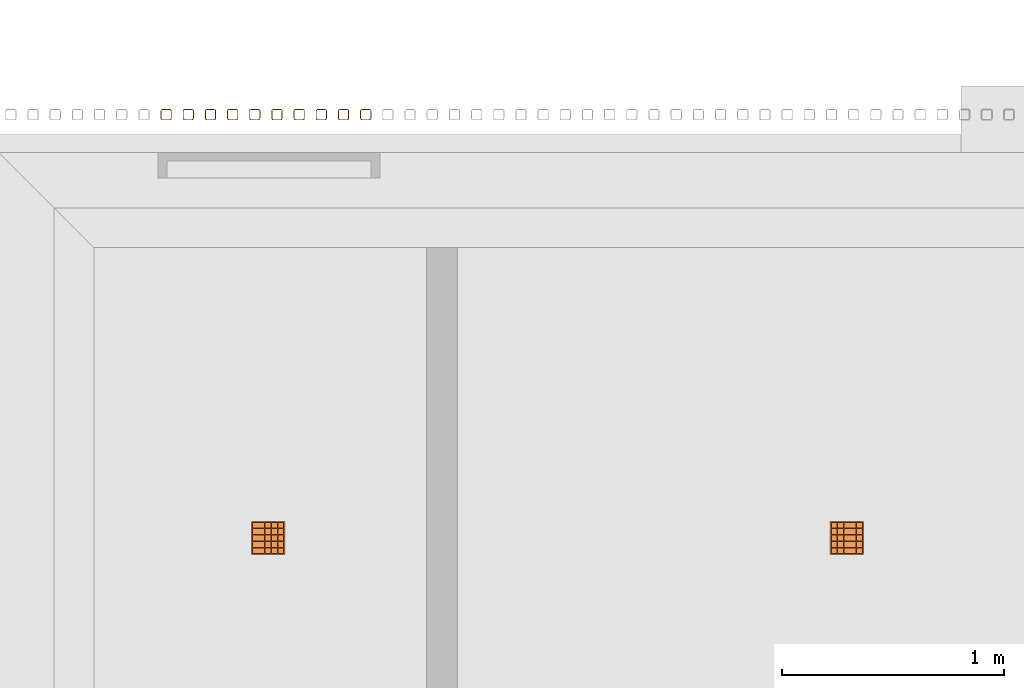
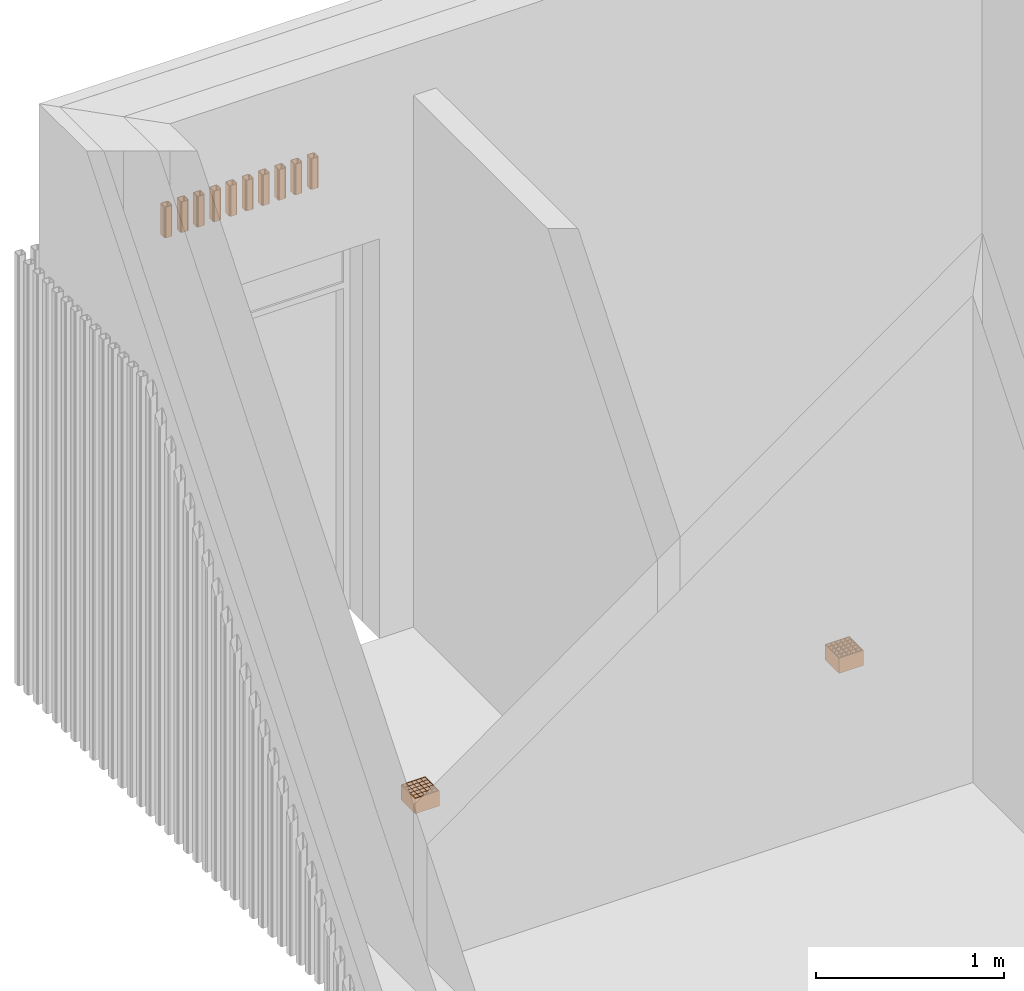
# One storey, part 101 of 112: 12 proxies.
"""IFC2X3 building model written with IfcOpenShell, lengths in millimetres."""

from ifc_helpers import new_model, entity, si_unit, converted_unit, derived_unit, money_unit, direction, frame, origin_with_axes, place, context, subcontext, project, spatial, faceted_brep, source, transform, mapped, material, type_object, element, save


model = new_model("IFC2X3")

# Units and contexts
model_context = context("Model", 3, precision=0.01, world=origin_with_axes(), true_north=direction((0.0, 1.0)))
body_context = subcontext(model_context, "Body", "Model", "MODEL_VIEW")
ifc_project = project(units=[si_unit("LENGTHUNIT", "METRE", prefix="MILLI"), si_unit("AREAUNIT", "SQUARE_METRE"), si_unit("VOLUMEUNIT", "CUBIC_METRE"), converted_unit("PLANEANGLEUNIT", "DEGREE", entity("IfcPlaneAngleMeasure", 0.0174532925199), si_unit("PLANEANGLEUNIT", "RADIAN"), dimensions=[0, 0, 0, 0, 0, 0, 0]), si_unit("SOLIDANGLEUNIT", "STERADIAN"), money_unit("EUR"), converted_unit("TIMEUNIT", "Year", entity("IfcTimeMeasure", 31556926.0), si_unit("TIMEUNIT", "SECOND"), dimensions=[0, 0, 1, 0, 0, 0, 0]), si_unit("MASSUNIT", "GRAM", prefix="KILO"), si_unit("THERMODYNAMICTEMPERATUREUNIT", "DEGREE_CELSIUS"), si_unit("LUMINOUSINTENSITYUNIT", "LUMEN"), si_unit("ENERGYUNIT", "JOULE", prefix="MEGA"), derived_unit("THERMALCONDUCTANCEUNIT", [(si_unit("POWERUNIT", "WATT"), 1), (si_unit("LENGTHUNIT", "METRE"), -1), (si_unit("THERMODYNAMICTEMPERATUREUNIT", "KELVIN"), -1)]), derived_unit("SPECIFICHEATCAPACITYUNIT", [(si_unit("ENERGYUNIT", "JOULE"), 1), (si_unit("MASSUNIT", "GRAM", prefix="KILO"), -1), (si_unit("THERMODYNAMICTEMPERATUREUNIT", "KELVIN"), -1)]), derived_unit("MASSDENSITYUNIT", [(si_unit("MASSUNIT", "GRAM", prefix="KILO"), 1), (si_unit("VOLUMEUNIT", "CUBIC_METRE"), -1)])], contexts=[model_context])

# Site, building, storey
site_placement = place(None, origin_with_axes())
site = spatial("IfcSite", under=ifc_project, at=site_placement, Name="Politse- ja Piirivalveameti ning Päästeameti ühishoone", CompositionType="ELEMENT")
building_placement = place(site_placement, origin_with_axes())
building = spatial("IfcBuilding", under=site, at=building_placement, Name="Politse- ja Piirivalveameti ning Päästeameti ühishoone", CompositionType="ELEMENT")
storey_placement = place(building_placement, origin_with_axes())
storey = spatial("IfcBuildingStorey", under=building, at=storey_placement, Name="Esimene korrus", CompositionType="ELEMENT", Elevation=0.0)

# Proxies
building_element_proxy_type_1 = type_object("IfcBuildingElementProxyType", Name="Grid 23", PredefinedType="NOTDEFINED")
shared_shape_1 = source(origin_with_axes(), body_context, "Body", "Brep", [
    faceted_brep([(0.0, 0.0, 0.0), (5.0, 5.0, 0.0), (5.0, 5.0, 100.0), (0.0, 0.0, 100.0), (0.0, 150.0, 0.0), (5.0, 145.0, 0.0), (5.0, 119.5, 0.0), (5.0, 117.5, 0.0), (5.0, 90.5, 0.0), (5.0, 88.5, 0.0), (5.0, 61.5, 0.0), (5.0, 59.5, 0.0), (5.0, 32.5, 0.0), (5.0, 30.5, 0.0), (5.0, 30.5, 100.0), (5.0, 32.5, 100.0), (5.0, 59.5, 100.0), (5.0, 61.5, 100.0), (5.0, 88.5, 100.0), (5.0, 90.5, 100.0), (5.0, 117.5, 100.0), (5.0, 119.5, 100.0), (5.0, 145.0, 100.0), (0.0, 150.0, 100.0)], [[[0, 1, 2, 3]], [[0, 4, 5, 6, 7, 8, 9, 10, 11, 12, 13, 1]], [[1, 13, 14, 2]], [[3, 2, 14, 15, 16, 17, 18, 19, 20, 21, 22, 23]], [[4, 0, 3, 23]], [[5, 4, 23, 22]], [[6, 5, 22, 21]], [[7, 6, 21, 20]], [[8, 7, 20, 19]], [[9, 8, 19, 18]], [[10, 9, 18, 17]], [[11, 10, 17, 16]], [[12, 11, 16, 15]], [[13, 12, 15, 14]]]),
    faceted_brep([(150.0, 150.0, 0.0), (145.0, 145.0, 0.0), (145.0, 145.0, 100.0), (150.0, 150.0, 100.0), (150.0, 0.0, 0.0), (145.0, 5.0, 0.0), (145.0, 30.5, 0.0), (145.0, 32.5, 0.0), (145.0, 59.5, 0.0), (145.0, 61.5, 0.0), (145.0, 88.5, 0.0), (145.0, 90.5, 0.0), (145.0, 117.5, 0.0), (145.0, 119.5, 0.0), (145.0, 119.5, 100.0), (145.0, 117.5, 100.0), (145.0, 90.5, 100.0), (145.0, 88.5, 100.0), (145.0, 61.5, 100.0), (145.0, 59.5, 100.0), (145.0, 32.5, 100.0), (145.0, 30.5, 100.0), (145.0, 5.0, 100.0), (150.0, 0.0, 100.0)], [[[0, 1, 2, 3]], [[0, 4, 5, 6, 7, 8, 9, 10, 11, 12, 13, 1]], [[1, 13, 14, 2]], [[3, 2, 14, 15, 16, 17, 18, 19, 20, 21, 22, 23]], [[4, 0, 3, 23]], [[5, 4, 23, 22]], [[6, 5, 22, 21]], [[7, 6, 21, 20]], [[8, 7, 20, 19]], [[9, 8, 19, 18]], [[10, 9, 18, 17]], [[11, 10, 17, 16]], [[12, 11, 16, 15]], [[13, 12, 15, 14]]]),
    faceted_brep([(150.0, 0.0, 0.0), (145.0, 5.0, 0.0), (145.0, 5.0, 100.0), (150.0, 0.0, 100.0), (0.0, 0.0, 0.0), (5.0, 5.0, 0.0), (30.5, 5.0, 0.0), (32.5, 5.0, 0.0), (59.5, 5.0, 0.0), (61.5, 5.0, 0.0), (88.5, 5.0, 0.0), (90.5, 5.0, 0.0), (117.5, 5.0, 0.0), (119.5, 5.0, 0.0), (119.5, 5.0, 100.0), (117.5, 5.0, 100.0), (90.5, 5.0, 100.0), (88.5, 5.0, 100.0), (61.5, 5.0, 100.0), (59.5, 5.0, 100.0), (32.5, 5.0, 100.0), (30.5, 5.0, 100.0), (5.0, 5.0, 100.0), (0.0, 0.0, 100.0)], [[[0, 1, 2, 3]], [[0, 4, 5, 6, 7, 8, 9, 10, 11, 12, 13, 1]], [[1, 13, 14, 2]], [[3, 2, 14, 15, 16, 17, 18, 19, 20, 21, 22, 23]], [[4, 0, 3, 23]], [[5, 4, 23, 22]], [[6, 5, 22, 21]], [[7, 6, 21, 20]], [[8, 7, 20, 19]], [[9, 8, 19, 18]], [[10, 9, 18, 17]], [[11, 10, 17, 16]], [[12, 11, 16, 15]], [[13, 12, 15, 14]]]),
    faceted_brep([(0.0, 150.0, 0.0), (5.0, 145.0, 0.0), (5.0, 145.0, 100.0), (0.0, 150.0, 100.0), (150.0, 150.0, 0.0), (145.0, 145.0, 0.0), (119.5, 145.0, 0.0), (117.5, 145.0, 0.0), (90.5, 145.0, 0.0), (88.5, 145.0, 0.0), (61.5, 145.0, 0.0), (59.5, 145.0, 0.0), (32.5, 145.0, 0.0), (30.5, 145.0, 0.0), (30.5, 145.0, 100.0), (32.5, 145.0, 100.0), (59.5, 145.0, 100.0), (61.5, 145.0, 100.0), (88.5, 145.0, 100.0), (90.5, 145.0, 100.0), (117.5, 145.0, 100.0), (119.5, 145.0, 100.0), (145.0, 145.0, 100.0), (150.0, 150.0, 100.0)], [[[0, 1, 2, 3]], [[0, 4, 5, 6, 7, 8, 9, 10, 11, 12, 13, 1]], [[1, 13, 14, 2]], [[3, 2, 14, 15, 16, 17, 18, 19, 20, 21, 22, 23]], [[4, 0, 3, 23]], [[5, 4, 23, 22]], [[6, 5, 22, 21]], [[7, 6, 21, 20]], [[8, 7, 20, 19]], [[9, 8, 19, 18]], [[10, 9, 18, 17]], [[11, 10, 17, 16]], [[12, 11, 16, 15]], [[13, 12, 15, 14]]]),
    faceted_brep([(30.5, 5.0, 0.0), (32.5, 5.0, 0.0), (32.5, 5.0, 100.0), (30.5, 5.0, 100.0), (30.5, 30.5, 0.0), (30.5, 32.5, 0.0), (30.5, 59.5, 0.0), (30.5, 61.5, 0.0), (30.5, 88.5, 0.0), (30.5, 90.5, 0.0), (30.5, 117.5, 0.0), (30.5, 119.5, 0.0), (30.5, 145.0, 0.0), (32.5, 145.0, 0.0), (32.5, 119.5, 0.0), (32.5, 117.5, 0.0), (32.5, 90.5, 0.0), (32.5, 88.5, 0.0), (32.5, 61.5, 0.0), (32.5, 59.5, 0.0), (32.5, 32.5, 0.0), (32.5, 30.5, 0.0), (32.5, 30.5, 100.0), (32.5, 32.5, 100.0), (32.5, 59.5, 100.0), (32.5, 61.5, 100.0), (32.5, 88.5, 100.0), (32.5, 90.5, 100.0), (32.5, 117.5, 100.0), (32.5, 119.5, 100.0), (32.5, 145.0, 100.0), (30.5, 145.0, 100.0), (30.5, 119.5, 100.0), (30.5, 117.5, 100.0), (30.5, 90.5, 100.0), (30.5, 88.5, 100.0), (30.5, 61.5, 100.0), (30.5, 59.5, 100.0), (30.5, 32.5, 100.0), (30.5, 30.5, 100.0)], [[[0, 1, 2, 3]], [[0, 4, 5, 6, 7, 8, 9, 10, 11, 12, 13, 14, 15, 16, 17, 18, 19, 20, 21, 1]], [[1, 21, 22, 2]], [[3, 2, 22, 23, 24, 25, 26, 27, 28, 29, 30, 31, 32, 33, 34, 35, 36, 37, 38, 39]], [[4, 0, 3, 39]], [[5, 4, 39, 38]], [[6, 5, 38, 37]], [[7, 6, 37, 36]], [[8, 7, 36, 35]], [[9, 8, 35, 34]], [[10, 9, 34, 33]], [[11, 10, 33, 32]], [[12, 11, 32, 31]], [[13, 12, 31, 30]], [[14, 13, 30, 29]], [[15, 14, 29, 28]], [[16, 15, 28, 27]], [[17, 16, 27, 26]], [[18, 17, 26, 25]], [[19, 18, 25, 24]], [[20, 19, 24, 23]], [[21, 20, 23, 22]]]),
    faceted_brep([(59.5, 5.0, 0.0), (61.5, 5.0, 0.0), (61.5, 5.0, 100.0), (59.5, 5.0, 100.0), (59.5, 30.5, 0.0), (59.5, 32.5, 0.0), (59.5, 59.5, 0.0), (59.5, 61.5, 0.0), (59.5, 88.5, 0.0), (59.5, 90.5, 0.0), (59.5, 117.5, 0.0), (59.5, 119.5, 0.0), (59.5, 145.0, 0.0), (61.5, 145.0, 0.0), (61.5, 119.5, 0.0), (61.5, 117.5, 0.0), (61.5, 90.5, 0.0), (61.5, 88.5, 0.0), (61.5, 61.5, 0.0), (61.5, 59.5, 0.0), (61.5, 32.5, 0.0), (61.5, 30.5, 0.0), (61.5, 30.5, 100.0), (61.5, 32.5, 100.0), (61.5, 59.5, 100.0), (61.5, 61.5, 100.0), (61.5, 88.5, 100.0), (61.5, 90.5, 100.0), (61.5, 117.5, 100.0), (61.5, 119.5, 100.0), (61.5, 145.0, 100.0), (59.5, 145.0, 100.0), (59.5, 119.5, 100.0), (59.5, 117.5, 100.0), (59.5, 90.5, 100.0), (59.5, 88.5, 100.0), (59.5, 61.5, 100.0), (59.5, 59.5, 100.0), (59.5, 32.5, 100.0), (59.5, 30.5, 100.0)], [[[0, 1, 2, 3]], [[0, 4, 5, 6, 7, 8, 9, 10, 11, 12, 13, 14, 15, 16, 17, 18, 19, 20, 21, 1]], [[1, 21, 22, 2]], [[3, 2, 22, 23, 24, 25, 26, 27, 28, 29, 30, 31, 32, 33, 34, 35, 36, 37, 38, 39]], [[4, 0, 3, 39]], [[5, 4, 39, 38]], [[6, 5, 38, 37]], [[7, 6, 37, 36]], [[8, 7, 36, 35]], [[9, 8, 35, 34]], [[10, 9, 34, 33]], [[11, 10, 33, 32]], [[12, 11, 32, 31]], [[13, 12, 31, 30]], [[14, 13, 30, 29]], [[15, 14, 29, 28]], [[16, 15, 28, 27]], [[17, 16, 27, 26]], [[18, 17, 26, 25]], [[19, 18, 25, 24]], [[20, 19, 24, 23]], [[21, 20, 23, 22]]]),
    faceted_brep([(88.5, 5.0, 0.0), (90.5, 5.0, 0.0), (90.5, 5.0, 100.0), (88.5, 5.0, 100.0), (88.5, 30.5, 0.0), (88.5, 32.5, 0.0), (88.5, 59.5, 0.0), (88.5, 61.5, 0.0), (88.5, 88.5, 0.0), (88.5, 90.5, 0.0), (88.5, 117.5, 0.0), (88.5, 119.5, 0.0), (88.5, 145.0, 0.0), (90.5, 145.0, 0.0), (90.5, 119.5, 0.0), (90.5, 117.5, 0.0), (90.5, 90.5, 0.0), (90.5, 88.5, 0.0), (90.5, 61.5, 0.0), (90.5, 59.5, 0.0), (90.5, 32.5, 0.0), (90.5, 30.5, 0.0), (90.5, 30.5, 100.0), (90.5, 32.5, 100.0), (90.5, 59.5, 100.0), (90.5, 61.5, 100.0), (90.5, 88.5, 100.0), (90.5, 90.5, 100.0), (90.5, 117.5, 100.0), (90.5, 119.5, 100.0), (90.5, 145.0, 100.0), (88.5, 145.0, 100.0), (88.5, 119.5, 100.0), (88.5, 117.5, 100.0), (88.5, 90.5, 100.0), (88.5, 88.5, 100.0), (88.5, 61.5, 100.0), (88.5, 59.5, 100.0), (88.5, 32.5, 100.0), (88.5, 30.5, 100.0)], [[[0, 1, 2, 3]], [[0, 4, 5, 6, 7, 8, 9, 10, 11, 12, 13, 14, 15, 16, 17, 18, 19, 20, 21, 1]], [[1, 21, 22, 2]], [[3, 2, 22, 23, 24, 25, 26, 27, 28, 29, 30, 31, 32, 33, 34, 35, 36, 37, 38, 39]], [[4, 0, 3, 39]], [[5, 4, 39, 38]], [[6, 5, 38, 37]], [[7, 6, 37, 36]], [[8, 7, 36, 35]], [[9, 8, 35, 34]], [[10, 9, 34, 33]], [[11, 10, 33, 32]], [[12, 11, 32, 31]], [[13, 12, 31, 30]], [[14, 13, 30, 29]], [[15, 14, 29, 28]], [[16, 15, 28, 27]], [[17, 16, 27, 26]], [[18, 17, 26, 25]], [[19, 18, 25, 24]], [[20, 19, 24, 23]], [[21, 20, 23, 22]]]),
    faceted_brep([(117.5, 5.0, 0.0), (119.5, 5.0, 0.0), (119.5, 5.0, 100.0), (117.5, 5.0, 100.0), (117.5, 30.5, 0.0), (117.5, 32.5, 0.0), (117.5, 59.5, 0.0), (117.5, 61.5, 0.0), (117.5, 88.5, 0.0), (117.5, 90.5, 0.0), (117.5, 117.5, 0.0), (117.5, 119.5, 0.0), (117.5, 145.0, 0.0), (119.5, 145.0, 0.0), (119.5, 119.5, 0.0), (119.5, 117.5, 0.0), (119.5, 90.5, 0.0), (119.5, 88.5, 0.0), (119.5, 61.5, 0.0), (119.5, 59.5, 0.0), (119.5, 32.5, 0.0), (119.5, 30.5, 0.0), (119.5, 30.5, 100.0), (119.5, 32.5, 100.0), (119.5, 59.5, 100.0), (119.5, 61.5, 100.0), (119.5, 88.5, 100.0), (119.5, 90.5, 100.0), (119.5, 117.5, 100.0), (119.5, 119.5, 100.0), (119.5, 145.0, 100.0), (117.5, 145.0, 100.0), (117.5, 119.5, 100.0), (117.5, 117.5, 100.0), (117.5, 90.5, 100.0), (117.5, 88.5, 100.0), (117.5, 61.5, 100.0), (117.5, 59.5, 100.0), (117.5, 32.5, 100.0), (117.5, 30.5, 100.0)], [[[0, 1, 2, 3]], [[0, 4, 5, 6, 7, 8, 9, 10, 11, 12, 13, 14, 15, 16, 17, 18, 19, 20, 21, 1]], [[1, 21, 22, 2]], [[3, 2, 22, 23, 24, 25, 26, 27, 28, 29, 30, 31, 32, 33, 34, 35, 36, 37, 38, 39]], [[4, 0, 3, 39]], [[5, 4, 39, 38]], [[6, 5, 38, 37]], [[7, 6, 37, 36]], [[8, 7, 36, 35]], [[9, 8, 35, 34]], [[10, 9, 34, 33]], [[11, 10, 33, 32]], [[12, 11, 32, 31]], [[13, 12, 31, 30]], [[14, 13, 30, 29]], [[15, 14, 29, 28]], [[16, 15, 28, 27]], [[17, 16, 27, 26]], [[18, 17, 26, 25]], [[19, 18, 25, 24]], [[20, 19, 24, 23]], [[21, 20, 23, 22]]]),
    faceted_brep([(30.5, 30.5, 0.0), (30.5, 32.5, 0.0), (30.5, 32.5, 100.0), (30.5, 30.5, 100.0), (5.0, 30.5, 0.0), (5.0, 32.5, 0.0), (5.0, 32.5, 100.0), (5.0, 30.5, 100.0)], [[[0, 1, 2, 3]], [[0, 4, 5, 1]], [[1, 5, 6, 2]], [[3, 2, 6, 7]], [[4, 0, 3, 7]], [[5, 4, 7, 6]]]),
    faceted_brep([(30.5, 59.5, 0.0), (30.5, 61.5, 0.0), (30.5, 61.5, 100.0), (30.5, 59.5, 100.0), (5.0, 59.5, 0.0), (5.0, 61.5, 0.0), (5.0, 61.5, 100.0), (5.0, 59.5, 100.0)], [[[0, 1, 2, 3]], [[0, 4, 5, 1]], [[1, 5, 6, 2]], [[3, 2, 6, 7]], [[4, 0, 3, 7]], [[5, 4, 7, 6]]]),
    faceted_brep([(30.5, 88.5, 0.0), (30.5, 90.5, 0.0), (30.5, 90.5, 100.0), (30.5, 88.5, 100.0), (5.0, 88.5, 0.0), (5.0, 90.5, 0.0), (5.0, 90.5, 100.0), (5.0, 88.5, 100.0)], [[[0, 1, 2, 3]], [[0, 4, 5, 1]], [[1, 5, 6, 2]], [[3, 2, 6, 7]], [[4, 0, 3, 7]], [[5, 4, 7, 6]]]),
    faceted_brep([(30.5, 117.5, 0.0), (30.5, 119.5, 0.0), (30.5, 119.5, 100.0), (30.5, 117.5, 100.0), (5.0, 117.5, 0.0), (5.0, 119.5, 0.0), (5.0, 119.5, 100.0), (5.0, 117.5, 100.0)], [[[0, 1, 2, 3]], [[0, 4, 5, 1]], [[1, 5, 6, 2]], [[3, 2, 6, 7]], [[4, 0, 3, 7]], [[5, 4, 7, 6]]]),
    faceted_brep([(59.5, 30.5, 0.0), (59.5, 32.5, 0.0), (59.5, 32.5, 100.0), (59.5, 30.5, 100.0), (32.5, 30.5, 0.0), (32.5, 32.5, 0.0), (32.5, 32.5, 100.0), (32.5, 30.5, 100.0)], [[[0, 1, 2, 3]], [[0, 4, 5, 1]], [[1, 5, 6, 2]], [[3, 2, 6, 7]], [[4, 0, 3, 7]], [[5, 4, 7, 6]]]),
    faceted_brep([(59.5, 59.5, 0.0), (59.5, 61.5, 0.0), (59.5, 61.5, 100.0), (59.5, 59.5, 100.0), (32.5, 59.5, 0.0), (32.5, 61.5, 0.0), (32.5, 61.5, 100.0), (32.5, 59.5, 100.0)], [[[0, 1, 2, 3]], [[0, 4, 5, 1]], [[1, 5, 6, 2]], [[3, 2, 6, 7]], [[4, 0, 3, 7]], [[5, 4, 7, 6]]]),
    faceted_brep([(59.5, 88.5, 0.0), (59.5, 90.5, 0.0), (59.5, 90.5, 100.0), (59.5, 88.5, 100.0), (32.5, 88.5, 0.0), (32.5, 90.5, 0.0), (32.5, 90.5, 100.0), (32.5, 88.5, 100.0)], [[[0, 1, 2, 3]], [[0, 4, 5, 1]], [[1, 5, 6, 2]], [[3, 2, 6, 7]], [[4, 0, 3, 7]], [[5, 4, 7, 6]]]),
    faceted_brep([(59.5, 117.5, 0.0), (59.5, 119.5, 0.0), (59.5, 119.5, 100.0), (59.5, 117.5, 100.0), (32.5, 117.5, 0.0), (32.5, 119.5, 0.0), (32.5, 119.5, 100.0), (32.5, 117.5, 100.0)], [[[0, 1, 2, 3]], [[0, 4, 5, 1]], [[1, 5, 6, 2]], [[3, 2, 6, 7]], [[4, 0, 3, 7]], [[5, 4, 7, 6]]]),
    faceted_brep([(88.5, 30.5, 0.0), (88.5, 32.5, 0.0), (88.5, 32.5, 100.0), (88.5, 30.5, 100.0), (61.5, 30.5, 0.0), (61.5, 32.5, 0.0), (61.5, 32.5, 100.0), (61.5, 30.5, 100.0)], [[[0, 1, 2, 3]], [[0, 4, 5, 1]], [[1, 5, 6, 2]], [[3, 2, 6, 7]], [[4, 0, 3, 7]], [[5, 4, 7, 6]]]),
    faceted_brep([(88.5, 59.5, 0.0), (88.5, 61.5, 0.0), (88.5, 61.5, 100.0), (88.5, 59.5, 100.0), (61.5, 59.5, 0.0), (61.5, 61.5, 0.0), (61.5, 61.5, 100.0), (61.5, 59.5, 100.0)], [[[0, 1, 2, 3]], [[0, 4, 5, 1]], [[1, 5, 6, 2]], [[3, 2, 6, 7]], [[4, 0, 3, 7]], [[5, 4, 7, 6]]]),
    faceted_brep([(88.5, 88.5, 0.0), (88.5, 90.5, 0.0), (88.5, 90.5, 100.0), (88.5, 88.5, 100.0), (61.5, 88.5, 0.0), (61.5, 90.5, 0.0), (61.5, 90.5, 100.0), (61.5, 88.5, 100.0)], [[[0, 1, 2, 3]], [[0, 4, 5, 1]], [[1, 5, 6, 2]], [[3, 2, 6, 7]], [[4, 0, 3, 7]], [[5, 4, 7, 6]]]),
    faceted_brep([(88.5, 117.5, 0.0), (88.5, 119.5, 0.0), (88.5, 119.5, 100.0), (88.5, 117.5, 100.0), (61.5, 117.5, 0.0), (61.5, 119.5, 0.0), (61.5, 119.5, 100.0), (61.5, 117.5, 100.0)], [[[0, 1, 2, 3]], [[0, 4, 5, 1]], [[1, 5, 6, 2]], [[3, 2, 6, 7]], [[4, 0, 3, 7]], [[5, 4, 7, 6]]]),
    faceted_brep([(117.5, 30.5, 0.0), (117.5, 32.5, 0.0), (117.5, 32.5, 100.0), (117.5, 30.5, 100.0), (90.5, 30.5, 0.0), (90.5, 32.5, 0.0), (90.5, 32.5, 100.0), (90.5, 30.5, 100.0)], [[[0, 1, 2, 3]], [[0, 4, 5, 1]], [[1, 5, 6, 2]], [[3, 2, 6, 7]], [[4, 0, 3, 7]], [[5, 4, 7, 6]]]),
    faceted_brep([(117.5, 59.5, 0.0), (117.5, 61.5, 0.0), (117.5, 61.5, 100.0), (117.5, 59.5, 100.0), (90.5, 59.5, 0.0), (90.5, 61.5, 0.0), (90.5, 61.5, 100.0), (90.5, 59.5, 100.0)], [[[0, 1, 2, 3]], [[0, 4, 5, 1]], [[1, 5, 6, 2]], [[3, 2, 6, 7]], [[4, 0, 3, 7]], [[5, 4, 7, 6]]]),
    faceted_brep([(117.5, 88.5, 0.0), (117.5, 90.5, 0.0), (117.5, 90.5, 100.0), (117.5, 88.5, 100.0), (90.5, 88.5, 0.0), (90.5, 90.5, 0.0), (90.5, 90.5, 100.0), (90.5, 88.5, 100.0)], [[[0, 1, 2, 3]], [[0, 4, 5, 1]], [[1, 5, 6, 2]], [[3, 2, 6, 7]], [[4, 0, 3, 7]], [[5, 4, 7, 6]]]),
    faceted_brep([(117.5, 117.5, 0.0), (117.5, 119.5, 0.0), (117.5, 119.5, 100.0), (117.5, 117.5, 100.0), (90.5, 117.5, 0.0), (90.5, 119.5, 0.0), (90.5, 119.5, 100.0), (90.5, 117.5, 100.0)], [[[0, 1, 2, 3]], [[0, 4, 5, 1]], [[1, 5, 6, 2]], [[3, 2, 6, 7]], [[4, 0, 3, 7]], [[5, 4, 7, 6]]]),
    faceted_brep([(145.0, 30.5, 0.0), (145.0, 32.5, 0.0), (145.0, 32.5, 100.0), (145.0, 30.5, 100.0), (119.5, 30.5, 0.0), (119.5, 32.5, 0.0), (119.5, 32.5, 100.0), (119.5, 30.5, 100.0)], [[[0, 1, 2, 3]], [[0, 4, 5, 1]], [[1, 5, 6, 2]], [[3, 2, 6, 7]], [[4, 0, 3, 7]], [[5, 4, 7, 6]]]),
    faceted_brep([(145.0, 59.5, 0.0), (145.0, 61.5, 0.0), (145.0, 61.5, 100.0), (145.0, 59.5, 100.0), (119.5, 59.5, 0.0), (119.5, 61.5, 0.0), (119.5, 61.5, 100.0), (119.5, 59.5, 100.0)], [[[0, 1, 2, 3]], [[0, 4, 5, 1]], [[1, 5, 6, 2]], [[3, 2, 6, 7]], [[4, 0, 3, 7]], [[5, 4, 7, 6]]]),
    faceted_brep([(145.0, 88.5, 0.0), (145.0, 90.5, 0.0), (145.0, 90.5, 100.0), (145.0, 88.5, 100.0), (119.5, 88.5, 0.0), (119.5, 90.5, 0.0), (119.5, 90.5, 100.0), (119.5, 88.5, 100.0)], [[[0, 1, 2, 3]], [[0, 4, 5, 1]], [[1, 5, 6, 2]], [[3, 2, 6, 7]], [[4, 0, 3, 7]], [[5, 4, 7, 6]]]),
    faceted_brep([(145.0, 117.5, 0.0), (145.0, 119.5, 0.0), (145.0, 119.5, 100.0), (145.0, 117.5, 100.0), (119.5, 117.5, 0.0), (119.5, 119.5, 0.0), (119.5, 119.5, 100.0), (119.5, 117.5, 100.0)], [[[0, 1, 2, 3]], [[0, 4, 5, 1]], [[1, 5, 6, 2]], [[3, 2, 6, 7]], [[4, 0, 3, 7]], [[5, 4, 7, 6]]]),
    faceted_brep([(5.0, 5.0, 43.65), (30.5, 5.0, 43.65), (30.5, 5.0, 56.35), (5.0, 5.0, 56.35), (5.0, 30.5, 43.65), (30.5, 30.5, 43.65), (30.5, 30.5, 56.35), (5.0, 30.5, 56.35)], [[[0, 1, 2, 3]], [[0, 4, 5, 1]], [[1, 5, 6, 2]], [[3, 2, 6, 7]], [[4, 0, 3, 7]], [[5, 4, 7, 6]]]),
    faceted_brep([(5.0, 32.5, 43.65), (30.5, 32.5, 43.65), (30.5, 32.5, 56.35), (5.0, 32.5, 56.35), (5.0, 59.5, 43.65), (30.5, 59.5, 43.65), (30.5, 59.5, 56.35), (5.0, 59.5, 56.35)], [[[0, 1, 2, 3]], [[0, 4, 5, 1]], [[1, 5, 6, 2]], [[3, 2, 6, 7]], [[4, 0, 3, 7]], [[5, 4, 7, 6]]]),
    faceted_brep([(5.0, 61.5, 43.65), (30.5, 61.5, 43.65), (30.5, 61.5, 56.35), (5.0, 61.5, 56.35), (5.0, 88.5, 43.65), (30.5, 88.5, 43.65), (30.5, 88.5, 56.35), (5.0, 88.5, 56.35)], [[[0, 1, 2, 3]], [[0, 4, 5, 1]], [[1, 5, 6, 2]], [[3, 2, 6, 7]], [[4, 0, 3, 7]], [[5, 4, 7, 6]]]),
    faceted_brep([(5.0, 90.5, 43.65), (30.5, 90.5, 43.65), (30.5, 90.5, 56.35), (5.0, 90.5, 56.35), (5.0, 117.5, 43.65), (30.5, 117.5, 43.65), (30.5, 117.5, 56.35), (5.0, 117.5, 56.35)], [[[0, 1, 2, 3]], [[0, 4, 5, 1]], [[1, 5, 6, 2]], [[3, 2, 6, 7]], [[4, 0, 3, 7]], [[5, 4, 7, 6]]]),
    faceted_brep([(5.0, 119.5, 43.65), (30.5, 119.5, 43.65), (30.5, 119.5, 56.35), (5.0, 119.5, 56.35), (5.0, 145.0, 43.65), (30.5, 145.0, 43.65), (30.5, 145.0, 56.35), (5.0, 145.0, 56.35)], [[[0, 1, 2, 3]], [[0, 4, 5, 1]], [[1, 5, 6, 2]], [[3, 2, 6, 7]], [[4, 0, 3, 7]], [[5, 4, 7, 6]]]),
    faceted_brep([(32.5, 5.0, 43.65), (59.5, 5.0, 43.65), (59.5, 5.0, 56.35), (32.5, 5.0, 56.35), (32.5, 30.5, 43.65), (59.5, 30.5, 43.65), (59.5, 30.5, 56.35), (32.5, 30.5, 56.35)], [[[0, 1, 2, 3]], [[0, 4, 5, 1]], [[1, 5, 6, 2]], [[3, 2, 6, 7]], [[4, 0, 3, 7]], [[5, 4, 7, 6]]]),
    faceted_brep([(32.5, 32.5, 43.65), (59.5, 32.5, 43.65), (59.5, 32.5, 56.35), (32.5, 32.5, 56.35), (32.5, 59.5, 43.65), (59.5, 59.5, 43.65), (59.5, 59.5, 56.35), (32.5, 59.5, 56.35)], [[[0, 1, 2, 3]], [[0, 4, 5, 1]], [[1, 5, 6, 2]], [[3, 2, 6, 7]], [[4, 0, 3, 7]], [[5, 4, 7, 6]]]),
    faceted_brep([(32.5, 61.5, 43.65), (59.5, 61.5, 43.65), (59.5, 61.5, 56.35), (32.5, 61.5, 56.35), (32.5, 88.5, 43.65), (59.5, 88.5, 43.65), (59.5, 88.5, 56.35), (32.5, 88.5, 56.35)], [[[0, 1, 2, 3]], [[0, 4, 5, 1]], [[1, 5, 6, 2]], [[3, 2, 6, 7]], [[4, 0, 3, 7]], [[5, 4, 7, 6]]]),
    faceted_brep([(32.5, 90.5, 43.65), (59.5, 90.5, 43.65), (59.5, 90.5, 56.35), (32.5, 90.5, 56.35), (32.5, 117.5, 43.65), (59.5, 117.5, 43.65), (59.5, 117.5, 56.35), (32.5, 117.5, 56.35)], [[[0, 1, 2, 3]], [[0, 4, 5, 1]], [[1, 5, 6, 2]], [[3, 2, 6, 7]], [[4, 0, 3, 7]], [[5, 4, 7, 6]]]),
    faceted_brep([(32.5, 119.5, 43.65), (59.5, 119.5, 43.65), (59.5, 119.5, 56.35), (32.5, 119.5, 56.35), (32.5, 145.0, 43.65), (59.5, 145.0, 43.65), (59.5, 145.0, 56.35), (32.5, 145.0, 56.35)], [[[0, 1, 2, 3]], [[0, 4, 5, 1]], [[1, 5, 6, 2]], [[3, 2, 6, 7]], [[4, 0, 3, 7]], [[5, 4, 7, 6]]]),
    faceted_brep([(61.5, 5.0, 43.65), (88.5, 5.0, 43.65), (88.5, 5.0, 56.35), (61.5, 5.0, 56.35), (61.5, 30.5, 43.65), (88.5, 30.5, 43.65), (88.5, 30.5, 56.35), (61.5, 30.5, 56.35)], [[[0, 1, 2, 3]], [[0, 4, 5, 1]], [[1, 5, 6, 2]], [[3, 2, 6, 7]], [[4, 0, 3, 7]], [[5, 4, 7, 6]]]),
    faceted_brep([(61.5, 32.5, 43.65), (88.5, 32.5, 43.65), (88.5, 32.5, 56.35), (61.5, 32.5, 56.35), (61.5, 59.5, 43.65), (88.5, 59.5, 43.65), (88.5, 59.5, 56.35), (61.5, 59.5, 56.35)], [[[0, 1, 2, 3]], [[0, 4, 5, 1]], [[1, 5, 6, 2]], [[3, 2, 6, 7]], [[4, 0, 3, 7]], [[5, 4, 7, 6]]]),
    faceted_brep([(61.5, 61.5, 43.65), (88.5, 61.5, 43.65), (88.5, 61.5, 56.35), (61.5, 61.5, 56.35), (61.5, 88.5, 43.65), (88.5, 88.5, 43.65), (88.5, 88.5, 56.35), (61.5, 88.5, 56.35)], [[[0, 1, 2, 3]], [[0, 4, 5, 1]], [[1, 5, 6, 2]], [[3, 2, 6, 7]], [[4, 0, 3, 7]], [[5, 4, 7, 6]]]),
    faceted_brep([(61.5, 90.5, 43.65), (88.5, 90.5, 43.65), (88.5, 90.5, 56.35), (61.5, 90.5, 56.35), (61.5, 117.5, 43.65), (88.5, 117.5, 43.65), (88.5, 117.5, 56.35), (61.5, 117.5, 56.35)], [[[0, 1, 2, 3]], [[0, 4, 5, 1]], [[1, 5, 6, 2]], [[3, 2, 6, 7]], [[4, 0, 3, 7]], [[5, 4, 7, 6]]]),
    faceted_brep([(61.5, 119.5, 43.65), (88.5, 119.5, 43.65), (88.5, 119.5, 56.35), (61.5, 119.5, 56.35), (61.5, 145.0, 43.65), (88.5, 145.0, 43.65), (88.5, 145.0, 56.35), (61.5, 145.0, 56.35)], [[[0, 1, 2, 3]], [[0, 4, 5, 1]], [[1, 5, 6, 2]], [[3, 2, 6, 7]], [[4, 0, 3, 7]], [[5, 4, 7, 6]]]),
    faceted_brep([(90.5, 5.0, 43.65), (117.5, 5.0, 43.65), (117.5, 5.0, 56.35), (90.5, 5.0, 56.35), (90.5, 30.5, 43.65), (117.5, 30.5, 43.65), (117.5, 30.5, 56.35), (90.5, 30.5, 56.35)], [[[0, 1, 2, 3]], [[0, 4, 5, 1]], [[1, 5, 6, 2]], [[3, 2, 6, 7]], [[4, 0, 3, 7]], [[5, 4, 7, 6]]]),
    faceted_brep([(90.5, 32.5, 43.65), (117.5, 32.5, 43.65), (117.5, 32.5, 56.35), (90.5, 32.5, 56.35), (90.5, 59.5, 43.65), (117.5, 59.5, 43.65), (117.5, 59.5, 56.35), (90.5, 59.5, 56.35)], [[[0, 1, 2, 3]], [[0, 4, 5, 1]], [[1, 5, 6, 2]], [[3, 2, 6, 7]], [[4, 0, 3, 7]], [[5, 4, 7, 6]]]),
    faceted_brep([(90.5, 61.5, 43.65), (117.5, 61.5, 43.65), (117.5, 61.5, 56.35), (90.5, 61.5, 56.35), (90.5, 88.5, 43.65), (117.5, 88.5, 43.65), (117.5, 88.5, 56.35), (90.5, 88.5, 56.35)], [[[0, 1, 2, 3]], [[0, 4, 5, 1]], [[1, 5, 6, 2]], [[3, 2, 6, 7]], [[4, 0, 3, 7]], [[5, 4, 7, 6]]]),
    faceted_brep([(90.5, 90.5, 43.65), (117.5, 90.5, 43.65), (117.5, 90.5, 56.35), (90.5, 90.5, 56.35), (90.5, 117.5, 43.65), (117.5, 117.5, 43.65), (117.5, 117.5, 56.35), (90.5, 117.5, 56.35)], [[[0, 1, 2, 3]], [[0, 4, 5, 1]], [[1, 5, 6, 2]], [[3, 2, 6, 7]], [[4, 0, 3, 7]], [[5, 4, 7, 6]]]),
    faceted_brep([(90.5, 119.5, 43.65), (117.5, 119.5, 43.65), (117.5, 119.5, 56.35), (90.5, 119.5, 56.35), (90.5, 145.0, 43.65), (117.5, 145.0, 43.65), (117.5, 145.0, 56.35), (90.5, 145.0, 56.35)], [[[0, 1, 2, 3]], [[0, 4, 5, 1]], [[1, 5, 6, 2]], [[3, 2, 6, 7]], [[4, 0, 3, 7]], [[5, 4, 7, 6]]]),
    faceted_brep([(119.5, 5.0, 43.65), (145.0, 5.0, 43.65), (145.0, 5.0, 56.35), (119.5, 5.0, 56.35), (119.5, 30.5, 43.65), (145.0, 30.5, 43.65), (145.0, 30.5, 56.35), (119.5, 30.5, 56.35)], [[[0, 1, 2, 3]], [[0, 4, 5, 1]], [[1, 5, 6, 2]], [[3, 2, 6, 7]], [[4, 0, 3, 7]], [[5, 4, 7, 6]]]),
    faceted_brep([(119.5, 32.5, 43.65), (145.0, 32.5, 43.65), (145.0, 32.5, 56.35), (119.5, 32.5, 56.35), (119.5, 59.5, 43.65), (145.0, 59.5, 43.65), (145.0, 59.5, 56.35), (119.5, 59.5, 56.35)], [[[0, 1, 2, 3]], [[0, 4, 5, 1]], [[1, 5, 6, 2]], [[3, 2, 6, 7]], [[4, 0, 3, 7]], [[5, 4, 7, 6]]]),
    faceted_brep([(119.5, 61.5, 43.65), (145.0, 61.5, 43.65), (145.0, 61.5, 56.35), (119.5, 61.5, 56.35), (119.5, 88.5, 43.65), (145.0, 88.5, 43.65), (145.0, 88.5, 56.35), (119.5, 88.5, 56.35)], [[[0, 1, 2, 3]], [[0, 4, 5, 1]], [[1, 5, 6, 2]], [[3, 2, 6, 7]], [[4, 0, 3, 7]], [[5, 4, 7, 6]]]),
    faceted_brep([(119.5, 90.5, 43.65), (145.0, 90.5, 43.65), (145.0, 90.5, 56.35), (119.5, 90.5, 56.35), (119.5, 117.5, 43.65), (145.0, 117.5, 43.65), (145.0, 117.5, 56.35), (119.5, 117.5, 56.35)], [[[0, 1, 2, 3]], [[0, 4, 5, 1]], [[1, 5, 6, 2]], [[3, 2, 6, 7]], [[4, 0, 3, 7]], [[5, 4, 7, 6]]]),
    faceted_brep([(119.5, 119.5, 43.65), (145.0, 119.5, 43.65), (145.0, 119.5, 56.35), (119.5, 119.5, 56.35), (119.5, 145.0, 43.65), (145.0, 145.0, 43.65), (145.0, 145.0, 56.35), (119.5, 145.0, 56.35)], [[[0, 1, 2, 3]], [[0, 4, 5, 1]], [[1, 5, 6, 2]], [[3, 2, 6, 7]], [[4, 0, 3, 7]], [[5, 4, 7, 6]]]),
])
for number, where, z_axis, x_axis, name in (
    (1, (63480.5557254, 36116.0665871, -100.0), (0.0, 0.0, 1.0), (1.0, 0.0, 0.0), "Trapp (138)"),
    (2, (60871.1390921, 36116.0665871, -100.0), (0.0, 0.0, 1.0), (1.0, 0.0, 0.0), "Trapp (125)"),
):
    element("IfcBuildingElementProxy", number, at=place(storey_placement, frame(where, z_axis=z_axis, x_axis=x_axis)), inside=storey, type_object=building_element_proxy_type_1, Name=name, context=body_context, shape_type="MappedRepresentation", body=[
        mapped(shared_shape_1, transform((0.0, 0.0, 0.0))),
    ])
ifc_material = material(Name="ET-05_Teras")
building_element_proxy_type_2 = type_object("IfcBuildingElementProxyType", Name="SHS Cold-Formed Column 23", PredefinedType="NOTDEFINED")
shared_shape_2 = source(origin_with_axes(), body_context, "Body", "Brep", [
    faceted_brep([(17.0, -25.0, 0.0), (17.0, -25.0, 200.0), (-17.0, -25.0, 200.0), (-17.0, -25.0, 0.0), (22.6568542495, -22.6568542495, 0.0), (22.6568542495, -22.6568542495, 200.0), (25.0, -17.0, 200.0), (25.0, 17.0, 200.0), (22.6568542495, 22.6568542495, 200.0), (17.0, 25.0, 200.0), (-17.0, 25.0, 200.0), (-22.6568542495, 22.6568542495, 200.0), (-25.0, 17.0, 200.0), (-25.0, -17.0, 200.0), (-22.6568542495, -22.6568542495, 200.0), (17.0, -21.0, 200.0), (-17.0, -21.0, 200.0), (-19.8284271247, -19.8284271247, 200.0), (-21.0, -17.0, 200.0), (-21.0, 17.0, 200.0), (-19.8284271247, 19.8284271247, 200.0), (-17.0, 21.0, 200.0), (17.0, 21.0, 200.0), (19.8284271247, 19.8284271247, 200.0), (21.0, 17.0, 200.0), (21.0, -17.0, 200.0), (19.8284271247, -19.8284271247, 200.0), (-22.6568542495, -22.6568542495, 0.0), (-25.0, -17.0, 0.0), (-25.0, 17.0, 0.0), (-22.6568542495, 22.6568542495, 0.0), (-17.0, 25.0, 0.0), (17.0, 25.0, 0.0), (22.6568542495, 22.6568542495, 0.0), (25.0, 17.0, 0.0), (25.0, -17.0, 0.0), (17.0, -21.0, 0.0), (19.8284271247, -19.8284271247, 0.0), (21.0, -17.0, 0.0), (21.0, 17.0, 0.0), (19.8284271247, 19.8284271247, 0.0), (17.0, 21.0, 0.0), (-17.0, 21.0, 0.0), (-19.8284271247, 19.8284271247, 0.0), (-21.0, 17.0, 0.0), (-21.0, -17.0, 0.0), (-19.8284271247, -19.8284271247, 0.0), (-17.0, -21.0, 0.0)], [[[0, 1, 2, 3]], [[4, 5, 1, 0]], [[1, 5, 6, 7, 8, 9, 10, 11, 12, 13, 14, 2], [15, 16, 17, 18, 19, 20, 21, 22, 23, 24, 25, 26]], [[3, 2, 14, 27]], [[0, 3, 27, 28, 29, 30, 31, 32, 33, 34, 35, 4], [36, 37, 38, 39, 40, 41, 42, 43, 44, 45, 46, 47]], [[35, 6, 5, 4]], [[34, 7, 6, 35]], [[33, 8, 7, 34]], [[32, 9, 8, 33]], [[31, 10, 9, 32]], [[30, 11, 10, 31]], [[29, 12, 11, 30]], [[28, 13, 12, 29]], [[27, 14, 13, 28]], [[47, 16, 15, 36]], [[46, 17, 16, 47]], [[45, 18, 17, 46]], [[44, 19, 18, 45]], [[43, 20, 19, 44]], [[42, 21, 20, 43]], [[41, 22, 21, 42]], [[40, 23, 22, 41]], [[39, 24, 23, 40]], [[38, 25, 24, 39]], [[37, 26, 25, 38]], [[36, 15, 26, 37]]]),
])
for number, where, z_axis, x_axis in (
    (3, (60485.9272492, 38099.9520832, 2600.0), (0.0, 0.0, 1.0), (0.0, -1.0, 0.0)),
    (4, (60585.9456821, 38099.9520832, 2600.0), (0.0, 0.0, 1.0), (0.0, -1.0, 0.0)),
    (5, (60685.9641151, 38099.9520832, 2600.0), (0.0, 0.0, 1.0), (0.0, -1.0, 0.0)),
    (6, (60785.982548, 38099.9520832, 2600.0), (0.0, 0.0, 1.0), (0.0, -1.0, 0.0)),
    (7, (60886.0009809, 38099.9520832, 2600.0), (0.0, 0.0, 1.0), (0.0, -1.0, 0.0)),
    (8, (60986.0194138, 38099.9520832, 2600.0), (0.0, 0.0, 1.0), (0.0, -1.0, 0.0)),
    (9, (61086.0378467, 38099.9520832, 2600.0), (0.0, 0.0, 1.0), (0.0, -1.0, 0.0)),
    (10, (61186.0562796, 38099.9520832, 2600.0), (0.0, 0.0, 1.0), (0.0, -1.0, 0.0)),
    (11, (61286.0747125, 38099.9520832, 2600.0), (0.0, 0.0, 1.0), (0.0, -1.0, 0.0)),
    (12, (61386.0931454, 38099.9520832, 2600.0), (0.0, 0.0, 1.0), (0.0, -1.0, 0.0)),
):
    element("IfcBuildingElementProxy", number, at=place(storey_placement, frame(where, z_axis=z_axis, x_axis=x_axis)), inside=storey, type_object=building_element_proxy_type_2, material=ifc_material, Name="Fassaadiribid", context=body_context, shape_type="MappedRepresentation", body=[
        mapped(shared_shape_2, transform((0.0, 0.0, 0.0))),
    ])

save(model, "model.ifc")
